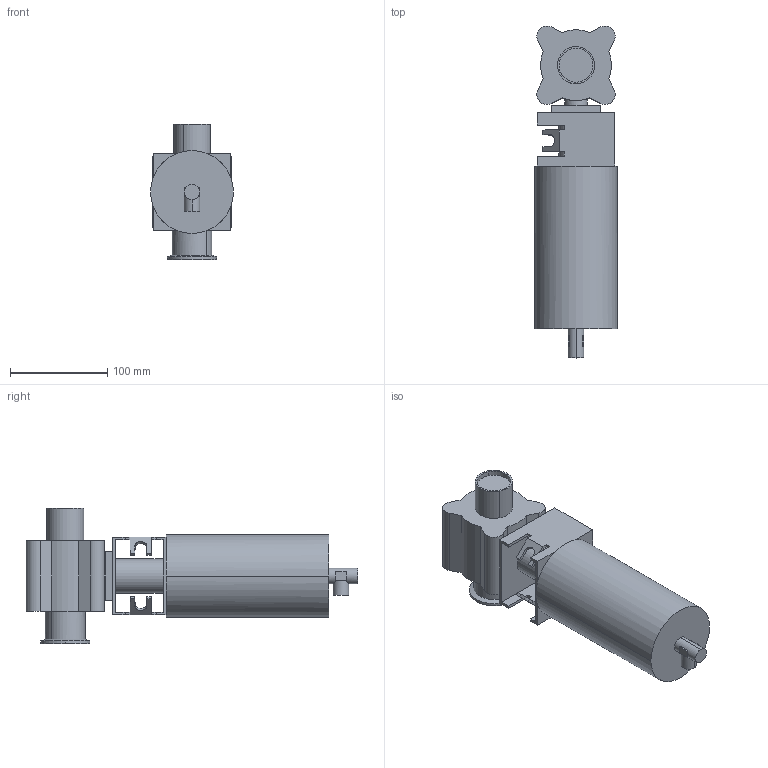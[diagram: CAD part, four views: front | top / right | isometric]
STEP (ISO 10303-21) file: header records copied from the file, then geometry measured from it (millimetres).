
FILE_DESCRIPTION(('Creo Elements/Direct Modeling STEP Export'),'2;1');
FILE_NAME('BLV1-1.5T-NC-12S.stp','2019-05-10T 8:05:03',(''),(''),'Creo Elements/Direct Modeling STEP processor for AP214 (Solid Model)','Creo Elements/Direct Modeling 19.0F 14-Feb-2017 (C) Parametric Technology GmbH','');
FILE_SCHEMA(('AUTOMOTIVE_DESIGN { 1 0 10303 214 1 1 1 1 }'));
Length unit declared in the file: millimetre
Products named in the file (2): BLV1-1.5T-NC-12S
Assembly tree (1 placements, depth 2):
  BLV1-1.5T-NC-12S
    BLV1-1.5T-NC-12S
Bounding box: 85 x 340.74 x 139 mm (x, y, z)
Volume: 1553527.2 mm3; surface area: 138132 mm2
Topology: 1 solids, 1 shells, 112 faces, 293 edges, 190 vertices
Faces by surface type: plane 80, cylinder 30, revolution 2
Entity records: 3258 total; most frequent: CARTESIAN_POINT 645, ORIENTED_EDGE 586, DIRECTION 473, EDGE_CURVE 293, VERTEX_POINT 190, VECTOR 189, LINE 189, AXIS2_PLACEMENT_3D 141
